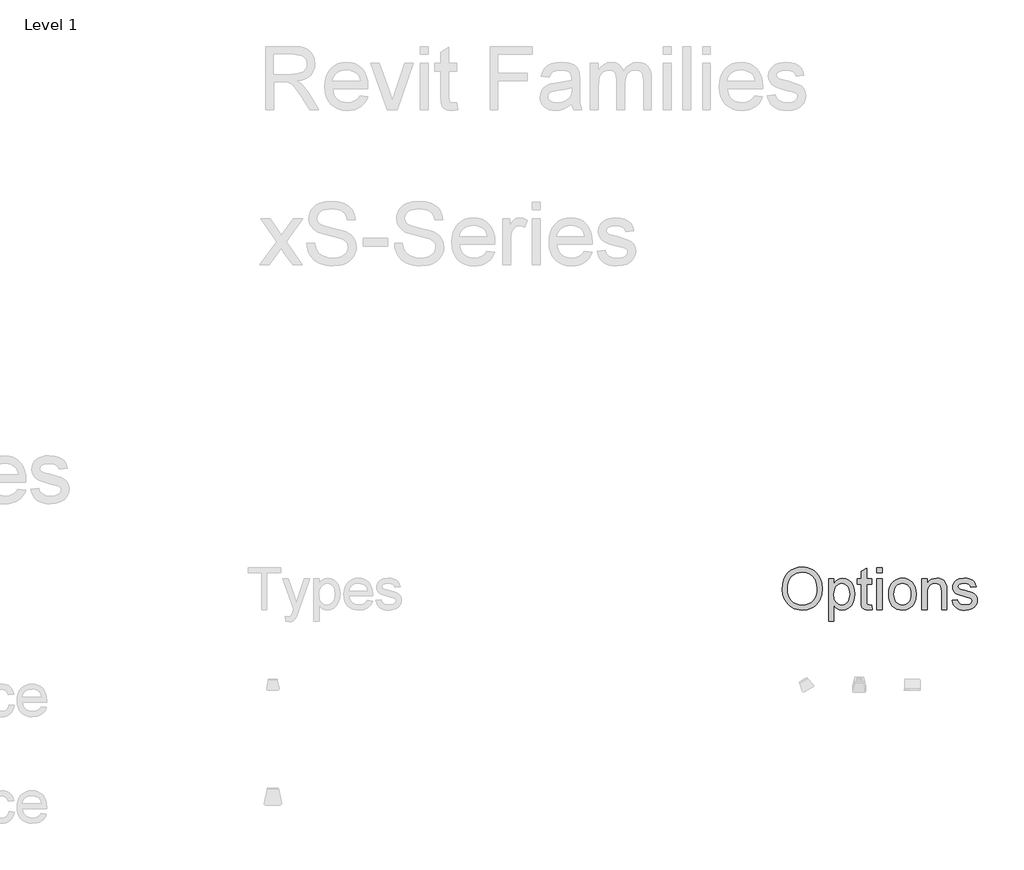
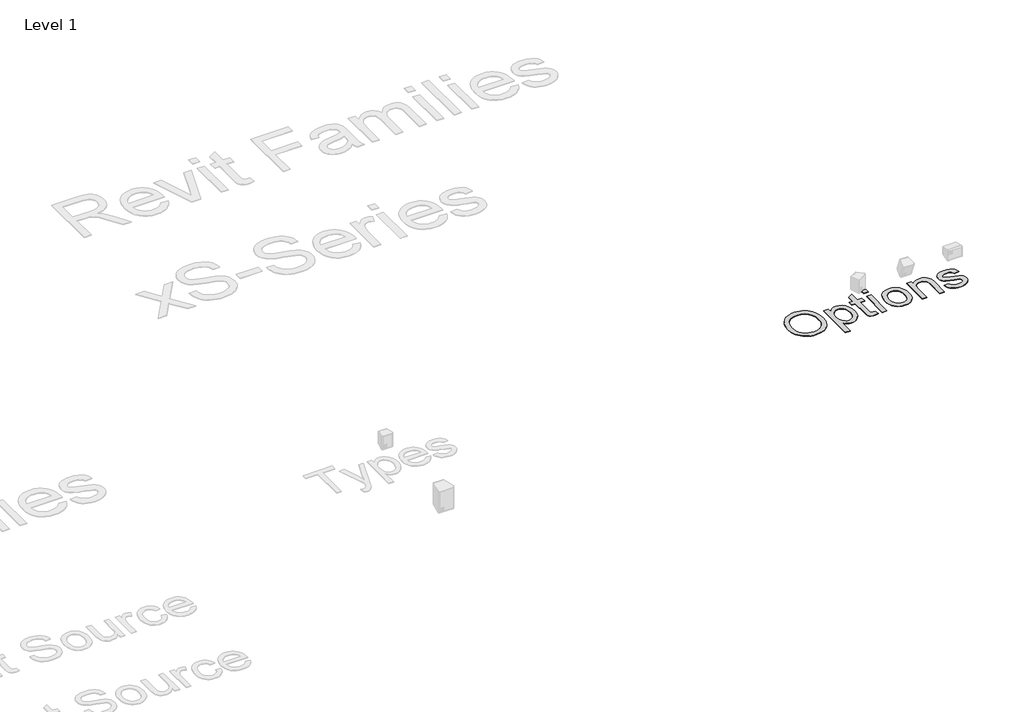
# One storey, part 55 of 55: 2 proxies.
"""IFC4 building model written with IfcOpenShell, lengths in millimetres."""

import ifcopenshell
import ifcopenshell.guid

model = None  # the IFC model being written
_history = None  # IfcOwnerHistory: only IFC2X3 demands one
_inside = {}  # id of a spatial element -> (the spatial element, [elements in it])
_under = {}  # id of a project, library or spatial element -> (it, [spatial elements below it])
_declared = {}  # id of a project -> (the project, [libraries it declares])
_typed = {}  # id of a type object -> (the type object, [elements of that type])
_made_of = {}  # id of a material, layer set ... -> (it, [elements and type objects made of it])


def new_model(schema):
    """Start an empty IFC model of exactly this schema.

    Asked for "IFC4X3", IfcOpenShell would pick the latest addendum, in which some entities
    have other attributes; the version numbers below select the first issue.
    IFC2X3 requires an IfcOwnerHistory on every rooted entity: one is made here for all.
    """
    global model, _history
    if schema == "IFC4X3":
        model = ifcopenshell.file(schema_version=(4, 3, 0, 0))
    else:
        model = ifcopenshell.file(schema=schema)
    _inside.clear()
    _under.clear()
    _declared.clear()
    _typed.clear()
    _made_of.clear()
    _history = None
    if model.schema == "IFC2X3":
        org = make("IfcOrganization", Name="unknown")
        user = make(
            "IfcPersonAndOrganization",
            ThePerson=make("IfcPerson", FamilyName="unknown"),
            TheOrganization=org,
        )
        app = make(
            "IfcApplication",
            ApplicationDeveloper=org,
            Version="unknown",
            ApplicationFullName="unknown",
            ApplicationIdentifier="unknown",
        )
        _history = make(
            "IfcOwnerHistory",
            OwningUser=user,
            OwningApplication=app,
            ChangeAction="ADDED",
            CreationDate=0,
        )
    return model


def make(cls, **values):
    """One entity of the class cls with the attributes given. An attribute that is None is left unset."""
    return model.create_entity(
        cls, **{name: value for name, value in values.items() if value is not None}
    )


def rooted(cls, **values):
    """An entity with a GlobalId (a new one), such as an element, a storey or a relation."""
    return make(cls, GlobalId=ifcopenshell.guid.new(), OwnerHistory=_history, **values)


def si_unit(unit_type, name, prefix=None):
    """IfcSIUnit, for example si_unit("LENGTHUNIT", "METRE", prefix="MILLI")."""
    return make("IfcSIUnit", UnitType=unit_type, Prefix=prefix, Name=name)


def assignment(units):
    """IfcUnitAssignment: the units of a project."""
    return None if units is None else make("IfcUnitAssignment", Units=units)


def point(xyz):
    """IfcCartesianPoint."""
    return None if xyz is None else make("IfcCartesianPoint", Coordinates=xyz)


def direction(xyz):
    """IfcDirection."""
    return None if xyz is None else make("IfcDirection", DirectionRatios=xyz)


def frame(location, z_axis=None, x_axis=None):
    """IfcAxis2Placement3D, a coordinate frame: its origin and axes. An axis left out is left unset."""
    return make(
        "IfcAxis2Placement3D",
        Location=point(location),
        Axis=direction(z_axis),
        RefDirection=direction(x_axis),
    )


def origin():
    """The frame at (0, 0, 0) with its axes left unset."""
    return frame((0.0, 0.0, 0.0))


def origin_with_axes():
    """The frame at (0, 0, 0) with the z axis (0, 0, 1) and the x axis (1, 0, 0) written out."""
    return frame((0.0, 0.0, 0.0), z_axis=(0.0, 0.0, 1.0), x_axis=(1.0, 0.0, 0.0))


def place(relative_to, where):
    """IfcLocalPlacement: puts the frame where relative to a parent placement (None: the world)."""
    return make(
        "IfcLocalPlacement", PlacementRelTo=relative_to, RelativePlacement=where
    )


def context(
    kind, dimensions, precision=None, world=None, true_north=None, identifier=None
):
    """IfcGeometricRepresentationContext, for example the 3D "Model" context."""
    return make(
        "IfcGeometricRepresentationContext",
        ContextIdentifier=identifier,
        ContextType=kind,
        CoordinateSpaceDimension=dimensions,
        Precision=precision,
        WorldCoordinateSystem=world,
        TrueNorth=true_north,
    )


def project(units=None, contexts=None):
    """IfcProject with its units and contexts."""
    return rooted(
        "IfcProject",
        Name="project",
        RepresentationContexts=contexts,
        UnitsInContext=assignment(units),
    )


def spatial(cls, under=None, at=None, **own):
    """A site, building, storey or space (cls), placed at a placement, below another one or the project."""
    s = rooted(cls, ObjectPlacement=at, **own)
    if under is not None:
        _under.setdefault(under.id(), (under, []))[1].append(s)
    return s


def polyline(points):
    """IfcPolyline through the points."""
    return make("IfcPolyline", Points=[point(p) for p in points])


def outline(outer, holes=None, kind="AREA"):
    """IfcArbitraryClosedProfileDef: a profile drawn as a closed curve; with holes, ...WithVoids."""
    if holes is None:
        return make("IfcArbitraryClosedProfileDef", ProfileType=kind, OuterCurve=outer)
    return make(
        "IfcArbitraryProfileDefWithVoids",
        ProfileType=kind,
        OuterCurve=outer,
        InnerCurves=holes,
    )


def extrude(swept, where, along, depth):
    """IfcExtrudedAreaSolid: the profile swept, set in the frame where, extruded along a direction by depth."""
    return make(
        "IfcExtrudedAreaSolid",
        SweptArea=swept,
        Position=where,
        ExtrudedDirection=direction(along),
        Depth=depth,
    )


def shape(context_of_items, identifier, shape_type, items):
    """IfcShapeRepresentation: the items that make up one representation, for example the "Body"."""
    return make(
        "IfcShapeRepresentation",
        ContextOfItems=context_of_items,
        RepresentationIdentifier=identifier,
        RepresentationType=shape_type,
        Items=items,
    )


def made_of(thing, what):
    """Note that an element or type object is made of a material, layer set ...; save() writes the relation."""
    if what is not None:
        _made_of.setdefault(what.id(), (what, []))[1].append(thing)
    return thing


def element(
    cls,
    number,
    at=None,
    inside=None,
    cuts=None,
    type_object=None,
    material=None,
    context=None,
    identifier="Body",
    shape_type=None,
    held_by="IfcProductDefinitionShape",
    body=None,
    shapes=None,
    **own,
):
    """One element of the class cls, such as IfcWall. Its Tag is "e" and its number.

    at: its placement. inside: the storey or other place that contains it. cuts: it is an
    opening in that element (IfcRelVoidsElement). A single representation is given by context,
    identifier, shape_type and body (its items); several are given by shapes. held_by: the class
    of the entity that holds the representations. save() writes the other relations.
    """
    e = rooted(cls, Tag="e%d" % number, ObjectPlacement=at, **own)
    if body is not None:
        shapes = [shape(context, identifier, shape_type, body)]
    if shapes is not None:
        e.Representation = make(held_by, Representations=shapes)
    if inside is not None:
        _inside.setdefault(inside.id(), (inside, []))[1].append(e)
    if cuts is not None:
        rooted(
            "IfcRelVoidsElement", RelatingBuildingElement=cuts, RelatedOpeningElement=e
        )
    if type_object is not None:
        _typed.setdefault(type_object.id(), (type_object, []))[1].append(e)
    return made_of(e, material)


def aggregate(whole, parts):
    """IfcRelAggregates: a whole, such as a stair, and the parts it consists of."""
    return rooted("IfcRelAggregates", RelatingObject=whole, RelatedObjects=parts)


def save(model, path):
    """Write the relations noted so far, then the file.

    IfcRelAggregates (storeys below a building ...), IfcRelContainedInSpatialStructure (elements
    in a storey), IfcRelDefinesByType, IfcRelAssociatesMaterial and IfcRelDeclares: one each for
    every whole, place, type object, material and project.
    """
    for whole, parts in _under.values():
        aggregate(whole, parts)
    for where, things in _inside.values():
        rooted(
            "IfcRelContainedInSpatialStructure",
            RelatedElements=things,
            RelatingStructure=where,
        )
    for kind, things in _typed.values():
        rooted("IfcRelDefinesByType", RelatedObjects=things, RelatingType=kind)
    for what, things in _made_of.values():
        rooted("IfcRelAssociatesMaterial", RelatedObjects=things, RelatingMaterial=what)
    for by, libraries in _declared.values():
        rooted("IfcRelDeclares", RelatingContext=by, RelatedDefinitions=libraries)
    model.write(path)


model = new_model("IFC4")

# Units and contexts
model_context = context("Model", 3, world=origin())
ifc_project = project(units=[si_unit("LENGTHUNIT", "METRE", prefix="MILLI")], contexts=[model_context])

# Site, building, storey
site = spatial("IfcSite", under=ifc_project)
building = spatial("IfcBuilding", under=site)
storey = spatial("IfcBuildingStorey", under=building, Name="Level 1", Elevation=0.0)

# Proxies
placement = place(None, origin())
element("IfcBuildingElementProxy", 1, Name="400mm Arial", ObjectType="400mm Arial", at=placement, inside=storey, context=model_context, shape_type="SweptSolid", body=[
    extrude(outline(polyline([(-6462.261333, 17542.0194987), (-6458.9974836, 17587.9704339), (-6449.2059353, 17628.6489968), (-6432.8866881, 17664.0551876), (-6410.0397421, 17694.1890063), (-6382.0340011, 17718.2494348), (-6350.238369, 17735.4354552), (-6314.6528458, 17745.7470674), (-6275.2774315, 17749.1842715), (-6248.9215484, 17747.57028), (-6223.892725, 17742.7283055), (-6200.1909613, 17734.6583482), (-6177.8162572, 17723.3604078), (-6157.3962762, 17709.1752161), (-6139.5586815, 17692.4435044), (-6124.3034732, 17673.1652729), (-6111.6306512, 17651.3405215), (-6101.671726, 17627.4654031), (-6094.558208, 17602.0360707), (-6088.8673936, 17546.5147639), (-6094.8570953, 17490.2522165), (-6102.3442224, 17464.4701971), (-6112.8262004, 17440.2543472), (-6126.0549528, 17418.2442857), (-6141.7824031, 17399.0796313), (-6160.0085513, 17382.7603841), (-6180.7333974, 17369.2865442), (-6226.4153339, 17351.2098396), (-6275.5643633, 17345.1842715), (-6302.3805328, 17346.8490738), (-6327.7381322, 17351.8434807), (-6351.6371616, 17360.1674923), (-6374.0776209, 17371.8211086), (-6394.473691, 17386.3530096), (-6412.2395527, 17403.3118756), (-6427.3752061, 17422.6977066), (-6439.8806512, 17444.5105025), (-6456.6661625, 17491.91403), (-6462.261333, 17542.0194987)]), holes=[polyline([(-6413.291636, 17541.541279), (-6410.843749, 17509.0761393), (-6403.5000877, 17480.2574249), (-6391.2606524, 17455.0851356), (-6374.1254429, 17433.5592715), (-6353.2959862, 17416.3194514), (-6329.9738093, 17404.0052942), (-6304.1589123, 17396.6167999), (-6275.8512951, 17394.1539684), (-6247.0594805, 17396.6407108), (-6220.9397184, 17404.1009381), (-6197.4920089, 17416.5346502), (-6176.7163519, 17433.9418472), (-6159.7066751, 17455.92202), (-6147.5569059, 17482.0746597), (-6140.2670444, 17512.3997662), (-6137.8370906, 17546.8973396), (-6141.9976019, 17590.2479552), (-6154.479136, 17627.7164684), (-6174.9588946, 17658.3583955), (-6203.1140792, 17681.2292525), (-6237.0796332, 17695.468244), (-6274.9904997, 17700.2145745), (-6302.3147776, 17697.9280866), (-6327.6663993, 17691.0686228), (-6351.0453647, 17679.6361831), (-6372.4516739, 17663.6307677), (-6390.3191573, 17642.2812471), (-6403.0816455, 17614.8164921), (-6410.7391384, 17581.2365027), (-6413.291636, 17541.541279)])]), origin_with_axes(), (0.0, 0.0, 1.0), 5.0),
    extrude(outline(polyline([(-6027.6552724, 17241.1236654), (-6027.6552724, 17639.0024533), (-5978.6855754, 17639.0024533), (-5978.6855754, 17590.9891957), (-5962.7130375, 17614.6730262), (-5944.8276209, 17631.590048), (-5923.9772421, 17641.740261), (-5899.1098179, 17645.1236654), (-5865.9931038, 17640.3892904), (-5837.0369012, 17626.1861654), (-5813.4606701, 17603.3750858), (-5796.4838709, 17572.8168472), (-5786.2260584, 17536.7351711), (-5782.8067875, 17497.353779), (-5786.6684116, 17455.4736891), (-5798.2532838, 17418.0171313), (-5817.1907838, 17386.885029), (-5843.1102913, 17363.9783055), (-5873.2979097, 17349.88278), (-5905.0397421, 17345.1842715), (-5927.5519343, 17348.328566), (-5947.6491171, 17357.7614495), (-5964.8530707, 17372.000441), (-5978.6855754, 17389.5630593), (-5978.6855754, 17241.1236654), (-6027.6552724, 17241.1236654)]), holes=[polyline([(-5978.6855754, 17492.8585139), (-5973.3892923, 17448.9579457), (-5966.7689384, 17431.9572355), (-5957.5004429, 17418.2562411), (-5934.0557222, 17400.1795366), (-5920.6386708, 17395.6603605), (-5906.0918254, 17394.1539684), (-5891.3357589, 17395.7141602), (-5877.6736199, 17400.3947355), (-5853.6311247, 17419.1170366), (-5844.0697196, 17433.3141839), (-5837.2401446, 17450.9425574), (-5831.7764845, 17496.4929836), (-5837.1086341, 17540.1544419), (-5843.7738212, 17557.2866625), (-5853.105083, 17571.2865442), (-5876.5139372, 17589.9371124), (-5889.778556, 17594.5997544), (-5904.0833027, 17596.1539684), (-5918.3432163, 17594.5011216), (-5931.7602677, 17589.5425811), (-5956.0657838, 17569.7084192), (-5965.9619426, 17554.9882191), (-5973.0306275, 17537.2731682), (-5977.2718384, 17516.5632665), (-5978.6855754, 17492.8585139)])]), origin_with_axes(), (0.0, 0.0, 1.0), 5.0),
    extrude(outline(polyline([(-5623.6552724, 17392.1454457), (-5617.5340603, 17349.8708245), (-5654.1656891, 17345.1842715), (-5677.6701872, 17347.2167052), (-5695.1969391, 17353.3140063), (-5707.5828292, 17362.7110233), (-5715.6647421, 17374.6426048), (-5720.1121853, 17395.1343188), (-5721.5946663, 17430.2117336), (-5721.5946663, 17590.0327563), (-5758.3219391, 17590.0327563), (-5758.3219391, 17639.0024533), (-5721.5946663, 17639.0024533), (-5721.5946663, 17708.918173), (-5672.6249694, 17737.7069987), (-5672.6249694, 17639.0024533), (-5623.6552724, 17639.0024533), (-5623.6552724, 17590.0327563), (-5672.6249694, 17590.0327563), (-5672.6249694, 17431.6463927), (-5670.042583, 17406.3963927), (-5661.6737383, 17397.4536843), (-5644.9838709, 17394.1539684), (-5623.6552724, 17392.1454457)])), origin_with_axes(), (0.0, 0.0, 1.0), 5.0),
    extrude(outline(polyline([(-5574.6855754, 17351.3054836), (-5574.6855754, 17639.0024533), (-5525.7158785, 17639.0024533), (-5525.7158785, 17351.3054836), (-5574.6855754, 17351.3054836)])), origin_with_axes(), (0.0, 0.0, 1.0), 5.0),
    extrude(outline(polyline([(-5574.6855754, 17694.0933624), (-5574.6855754, 17743.0630593), (-5525.7158785, 17743.0630593), (-5525.7158785, 17694.0933624), (-5574.6855754, 17694.0933624)])), origin_with_axes(), (0.0, 0.0, 1.0), 5.0),
    extrude(outline(polyline([(-5464.5037572, 17495.1539684), (-5461.8556157, 17532.4132606), (-5453.911191, 17564.5197355), (-5440.6704831, 17591.4733931), (-5422.1334921, 17613.2742336), (-5403.4709684, 17627.20836), (-5382.871655, 17637.1613074), (-5360.3355518, 17643.1330759), (-5335.8626588, 17645.1236654), (-5308.8462348, 17642.6996893), (-5284.4181749, 17635.427761), (-5262.5784791, 17623.3078806), (-5243.3271474, 17606.340048), (-5227.6146415, 17585.0981268), (-5216.391423, 17560.1559807), (-5209.6574919, 17531.5136098), (-5207.4128482, 17499.1710139), (-5211.3820716, 17449.6991862), (-5223.2897421, 17412.0393851), (-5242.7891502, 17383.8363785), (-5269.5335868, 17362.7349343), (-5301.2993302, 17349.5719372), (-5335.8626588, 17345.1842715), (-5363.273614, 17347.5992809), (-5387.9288283, 17354.8443093), (-5409.8283015, 17366.9193567), (-5428.9720338, 17383.824423), (-5444.5171628, 17405.2725764), (-5455.6208264, 17430.9768851), (-5462.2830245, 17460.9373491), (-5464.5037572, 17495.1539684)]), holes=[polyline([(-5415.5340603, 17495.2496124), (-5414.1173344, 17471.4970378), (-5409.8671569, 17450.9306019), (-5402.7835276, 17433.5503048), (-5392.8664466, 17419.3561465), (-5380.8033548, 17408.3301936), (-5367.2816929, 17400.4545129), (-5352.3014608, 17395.7291045), (-5335.8626588, 17394.1539684), (-5319.5075451, 17395.7380712), (-5304.5870906, 17400.4903794), (-5291.1012951, 17408.4108931), (-5279.0501588, 17419.4996124), (-5269.1330778, 17433.8342478), (-5262.0494485, 17451.4925101), (-5257.799271, 17472.4743993), (-5256.3825451, 17496.7799154), (-5257.8082376, 17519.7792939), (-5262.085315, 17539.8077326), (-5269.2137774, 17556.8652314), (-5279.1936247, 17570.9517904), (-5291.2895941, 17581.9777433), (-5304.766423, 17589.8534239), (-5319.6241112, 17594.5788323), (-5335.8626588, 17596.1539684), (-5352.3014608, 17594.58481), (-5367.2816929, 17589.8773349), (-5380.8033548, 17582.031543), (-5392.8664466, 17571.0474343), (-5402.7835276, 17556.8951202), (-5409.8671569, 17539.5447118), (-5414.1173344, 17518.9962092), (-5415.5340603, 17495.2496124)])]), origin_with_axes(), (0.0, 0.0, 1.0), 5.0),
    extrude(outline(polyline([(-5152.3219391, 17351.3054836), (-5152.3219391, 17639.0024533), (-5103.3522421, 17639.0024533), (-5103.3522421, 17598.8319987), (-5086.3395764, 17619.0846029), (-5065.9076398, 17633.5507487), (-5042.0564324, 17642.2304362), (-5014.7859542, 17645.1236654), (-4990.647815, 17642.7923444), (-4968.5421095, 17635.7983813), (-4950.1067402, 17625.0145271), (-4936.9796095, 17611.3135328), (-4928.0727677, 17594.7312648), (-4922.2982648, 17575.3035896), (-4919.7158785, 17527.9598396), (-4919.7158785, 17351.3054836), (-4968.6855754, 17351.3054836), (-4968.6855754, 17521.3604078), (-4970.0963235, 17546.6821408), (-4974.3285679, 17564.6871124), (-4982.1355044, 17577.5870887), (-4994.2703292, 17587.5938358), (-5009.8244249, 17594.0139353), (-5027.8891739, 17596.1539684), (-5056.5704002, 17591.3478605), (-5081.0193822, 17576.9295366), (-5090.7900084, 17565.1593543), (-5097.7690271, 17549.0732393), (-5101.9564384, 17528.6711914), (-5103.3522421, 17503.9532108), (-5103.3522421, 17351.3054836), (-5152.3219391, 17351.3054836)])), origin_with_axes(), (0.0, 0.0, 1.0), 5.0),
    extrude(outline(polyline([(-4870.7461815, 17437.0024533), (-4821.7764845, 17443.1236654), (-4814.0532364, 17422.1776427), (-4799.1088709, 17406.7789684), (-4776.847744, 17397.3102184), (-4747.1742118, 17394.1539684), (-4717.8593444, 17397.0471976), (-4697.2480754, 17405.7268851), (-4685.0534732, 17418.3040631), (-4680.9886057, 17432.8897639), (-4685.0773841, 17445.371298), (-4697.3437194, 17454.8878699), (-4747.7480754, 17468.8518851), (-4821.4895527, 17492.8106919), (-4840.1520764, 17504.8498728), (-4853.6737383, 17520.7865442), (-4861.8871616, 17539.6044893), (-4864.6249694, 17560.2874911), (-4862.4251588, 17579.2608576), (-4855.8257269, 17596.775654), (-4845.4244485, 17612.1384618), (-4831.8190982, 17624.6558624), (-4800.6869959, 17639.1459192), (-4758.5558406, 17645.1236654), (-4726.6824978, 17642.7206114), (-4698.9696663, 17635.5114495), (-4676.6846285, 17624.2015536), (-4661.0946663, 17609.496298), (-4650.7651209, 17590.3077326), (-4644.261333, 17565.5479078), (-4693.23103, 17559.4266957), (-4699.4120196, 17574.8373254), (-4711.6424883, 17586.4461086), (-4730.0419911, 17593.7270035), (-4754.730083, 17596.1539684), (-4782.8494012, 17593.8346029), (-4801.5956133, 17586.8765063), (-4812.1403576, 17576.8338927), (-4815.6552724, 17565.260976), (-4809.8209921, 17551.010029), (-4791.5529997, 17540.2022639), (-4749.3740224, 17529.7770745), (-4677.4976019, 17506.7268851), (-4658.51228, 17495.7039211), (-4644.1178671, 17480.6160896), (-4635.0436483, 17461.4155688), (-4632.0189088, 17438.0545366), (-4635.56969, 17413.9044419), (-4646.2220338, 17391.1890063), (-4663.5694533, 17371.6895982), (-4687.2054618, 17357.1875858), (-4715.7551777, 17348.1851), (-4747.8437194, 17345.1842715), (-4774.1996024, 17346.630886), (-4797.2199031, 17350.9707298), (-4816.9046214, 17358.2038027), (-4833.2537572, 17368.3301048), (-4846.6080423, 17381.3018141), (-4857.308208, 17397.0711086), (-4865.3542544, 17415.6379883), (-4870.7461815, 17437.0024533)])), origin_with_axes(), (0.0, 0.0, 1.0), 5.0),
])
element("IfcBuildingElementProxy", 2, Name="600mm Arial", ObjectType="600mm Arial", at=placement, inside=storey, context=model_context, shape_type="SweptSolid", body=[
    extrude(outline(polyline([(-11309.2935955, 22041.6162982), (-11309.2935955, 22632.385529), (-11054.7262878, 22632.385529), (-10986.3068167, 22628.401154), (-10936.5291724, 22616.448029), (-10917.3194369, 22606.9468271), (-10900.1469609, 22594.3807213), (-10885.0117446, 22578.7497117), (-10871.9137878, 22560.0537982), (-10861.3443768, 22539.2980891), (-10853.7947974, 22517.4876924), (-10847.755134, 22470.7028367), (-10850.2566364, 22440.3602886), (-10857.7611436, 22412.5057213), (-10870.2686556, 22387.1391347), (-10887.7791724, 22364.260529), (-10910.5180547, 22344.6000722), (-10938.7106628, 22328.8879328), (-10972.356997, 22317.1241107), (-11011.4570571, 22309.3086059), (-10987.1181148, 22293.4071636), (-10969.4859032, 22277.7220674), (-10909.630134, 22201.7124521), (-10811.1205186, 22041.6162982), (-10896.9378263, 22041.6162982), (-10973.8128263, 22164.0682213), (-11029.3416724, 22245.1259136), (-11049.9847013, 22268.7617309), (-11068.3560955, 22283.4191828), (-11103.4762878, 22297.4816828), (-11146.3128263, 22300.0778367), (-11235.4474417, 22300.0778367), (-11235.4474417, 22041.6162982), (-11309.2935955, 22041.6162982)]), holes=[polyline([(-11235.4474417, 22373.9239905), (-11070.1589801, 22373.9239905), (-11022.6890282, 22376.5381732), (-10985.8560955, 22384.3807213), (-10958.1277301, 22397.9744713), (-10937.9714801, 22417.8422597), (-10925.6938359, 22441.8747117), (-10921.6012878, 22467.9624521), (-10923.5529104, 22486.8476684), (-10929.4077782, 22503.9840867), (-10939.1658912, 22519.3717069), (-10952.8272494, 22533.010529), (-10970.7073575, 22544.1793992), (-10993.1217205, 22552.1571636), (-11020.0703383, 22556.9438222), (-11051.5532109, 22558.5393751), (-11235.4474417, 22558.5393751), (-11235.4474417, 22373.9239905)])]), origin_with_axes(), (0.0, 0.0, 1.0), 5.0),
    extrude(outline(polyline([(-10424.005134, 22170.8470674), (-10351.6012878, 22161.6162982), (-10362.7025498, 22132.6168992), (-10377.6890282, 22107.0610097), (-10396.5607229, 22084.9486299), (-10419.317634, 22066.2797597), (-10445.7253864, 22051.4510338), (-10475.5496051, 22040.8590867), (-10508.7902902, 22034.5039184), (-10545.4474417, 22032.385529), (-10591.2677542, 22036.0408775), (-10632.0940763, 22047.0069232), (-10667.926408, 22065.283666), (-10698.7647494, 22090.8711059), (-10723.5634273, 22123.0571035), (-10741.2767686, 22161.1295194), (-10751.9047734, 22205.0883535), (-10755.4474417, 22254.9336059), (-10751.8687157, 22306.4690626), (-10741.1325378, 22351.8927405), (-10723.238908, 22391.2046396), (-10698.1878263, 22424.4047597), (-10667.4306148, 22450.7809617), (-10632.4185955, 22469.6211059), (-10593.1517686, 22480.9251924), (-10549.630134, 22484.6932213), (-10507.5102422, 22480.9342069), (-10469.4197974, 22469.6571636), (-10435.3587998, 22450.8620915), (-10405.3272494, 22424.5489905), (-10380.8125258, 22391.4209857), (-10363.302009, 22352.1812021), (-10352.7956989, 22306.8296396), (-10349.2935955, 22255.3662982), (-10349.7262878, 22235.4624521), (-10681.6012878, 22235.4624521), (-10677.3239441, 22205.994303), (-10668.8188359, 22180.1860097), (-10656.0859633, 22158.0375722), (-10639.1253263, 22139.5489905), (-10618.8744248, 22124.9726684), (-10596.270759, 22114.5610097), (-10571.3143287, 22108.3140146), (-10544.005134, 22106.2316828), (-10504.7022494, 22110.0898559), (-10471.6012878, 22121.6643751), (-10444.7022494, 22141.6763944), (-10424.005134, 22170.8470674)]), holes=[polyline([(-10681.6012878, 22309.3086059), (-10423.1397494, 22309.3086059), (-10433.1277301, 22348.323029), (-10441.7184753, 22363.6655771), (-10452.7070571, 22376.2316828), (-10472.8452782, 22391.3759136), (-10495.7599417, 22402.1932213), (-10521.4510474, 22408.6836059), (-10549.9185955, 22410.8470674), (-10575.8846412, 22409.1208054), (-10599.6962398, 22403.9420194), (-10621.3533912, 22395.3107093), (-10640.8560955, 22383.2268751), (-10657.2217806, 22368.2494112), (-10669.4678744, 22350.9372117), (-10677.5943768, 22331.2902766), (-10681.6012878, 22309.3086059)])]), origin_with_axes(), (0.0, 0.0, 1.0), 5.0),
    extrude(outline(polyline([(-10169.005134, 22041.6162982), (-10321.6012878, 22475.4624521), (-10243.4282109, 22475.4624521), (-10150.9762878, 22215.5586059), (-10123.1397494, 22128.1547597), (-10095.880134, 22210.6547597), (-10002.8512878, 22475.4624521), (-9924.6782109, 22475.4624521), (-10075.3993648, 22041.6162982), (-10169.005134, 22041.6162982)])), origin_with_axes(), (0.0, 0.0, 1.0), 5.0),
    extrude(outline(polyline([(-9860.0628263, 22041.6162982), (-9860.0628263, 22475.4624521), (-9786.2166724, 22475.4624521), (-9786.2166724, 22041.6162982), (-9860.0628263, 22041.6162982)])), origin_with_axes(), (0.0, 0.0, 1.0), 5.0),
    extrude(outline(polyline([(-9860.0628263, 22558.5393751), (-9860.0628263, 22632.385529), (-9786.2166724, 22632.385529), (-9786.2166724, 22558.5393751), (-9860.0628263, 22558.5393751)])), origin_with_axes(), (0.0, 0.0, 1.0), 5.0),
    extrude(outline(polyline([(-9518.5243648, 22103.2028367), (-9509.2935955, 22039.4528367), (-9564.5339801, 22032.385529), (-9599.9786917, 22035.4504328), (-9626.4089801, 22044.6451444), (-9645.0868648, 22058.8158174), (-9657.2743648, 22076.8086059), (-9663.9810955, 22107.7100482), (-9666.2166724, 22160.6066828), (-9666.2166724, 22401.6162982), (-9721.6012878, 22401.6162982), (-9721.6012878, 22475.4624521), (-9666.2166724, 22475.4624521), (-9666.2166724, 22580.8951444), (-9592.3705186, 22624.3086059), (-9592.3705186, 22475.4624521), (-9518.5243648, 22475.4624521), (-9518.5243648, 22401.6162982), (-9592.3705186, 22401.6162982), (-9592.3705186, 22162.7701444), (-9588.4762878, 22124.6932213), (-9575.8560955, 22111.2076444), (-9565.2010474, 22107.4756732), (-9550.6878263, 22106.2316828), (-9518.5243648, 22103.2028367)])), origin_with_axes(), (0.0, 0.0, 1.0), 5.0),
    extrude(outline(polyline([(-9204.6782109, 22041.6162982), (-9204.6782109, 22632.385529), (-8807.755134, 22632.385529), (-8807.755134, 22558.5393751), (-9130.8320571, 22558.5393751), (-9130.8320571, 22383.1547597), (-8853.9089801, 22383.1547597), (-8853.9089801, 22309.3086059), (-9130.8320571, 22309.3086059), (-9130.8320571, 22041.6162982), (-9204.6782109, 22041.6162982)])), origin_with_axes(), (0.0, 0.0, 1.0), 5.0),
    extrude(outline(polyline([(-8438.5243648, 22097.0009136), (-8473.8068167, 22066.7485097), (-8510.1349417, 22046.9528367), (-8548.3380667, 22036.0273559), (-8589.2455186, 22032.385529), (-8622.1256268, 22034.5760338), (-8650.958259, 22041.1475482), (-8675.7434152, 22052.1000722), (-8696.4810955, 22067.4336059), (-8712.855795, 22086.1745915), (-8724.552009, 22107.3494713), (-8731.5697373, 22130.9582453), (-8733.9089801, 22157.0009136), (-8730.3753263, 22187.6138944), (-8719.7743648, 22215.4143751), (-8703.4222013, 22239.2124521), (-8682.6349417, 22257.8182213), (-8658.2058551, 22271.8807213), (-8630.9282109, 22282.0489905), (-8567.0339801, 22293.1547597), (-8491.5291724, 22304.8374521), (-8438.9570571, 22318.5393751), (-8438.5243648, 22334.9816828), (-8443.6084994, 22367.9384136), (-8449.9636676, 22380.1439424), (-8458.8609032, 22389.5009136), (-8474.239509, 22398.8398559), (-8492.9714801, 22405.510529), (-8540.4955186, 22410.8470674), (-8584.4859032, 22407.2953847), (-8615.2070571, 22396.6403367), (-8636.1565763, 22376.9348078), (-8650.8320571, 22346.2316828), (-8724.6782109, 22355.4624521), (-8711.8597013, 22395.8470674), (-8692.7310955, 22427.5778367), (-8665.5075378, 22451.8446636), (-8628.4041724, 22469.8374521), (-8583.0255667, 22480.979279), (-8530.9762878, 22484.6932213), (-8481.0544128, 22481.4119713), (-8441.4810955, 22471.5682213), (-8411.6433551, 22456.7665386), (-8390.9282109, 22438.6114905), (-8377.1902301, 22416.1655771), (-8368.2839801, 22388.4912982), (-8364.6782109, 22323.8759136), (-8364.6782109, 22232.0009136), (-8360.9282109, 22103.7076444), (-8355.3753263, 22071.994904), (-8346.2166724, 22041.6162982), (-8420.0628263, 22041.6162982), (-8431.8897494, 22067.2893751), (-8438.5243648, 22097.0009136)]), holes=[polyline([(-8438.5243648, 22244.6932213), (-8488.1397494, 22232.3975482), (-8557.6589801, 22222.0489905), (-8621.192634, 22210.0778367), (-8637.7250859, 22201.8927405), (-8649.9666724, 22190.6066828), (-8657.5387878, 22177.0850482), (-8660.0628263, 22162.1932213), (-8654.5640282, 22140.2340867), (-8638.067634, 22122.2412982), (-8610.9342205, 22110.2340867), (-8573.5243648, 22106.2316828), (-8533.8609032, 22110.6487501), (-8498.8128263, 22123.8999521), (-8470.3993648, 22143.4251924), (-8450.6397494, 22166.6643751), (-8441.8777301, 22190.6066828), (-8438.9570571, 22223.7797597), (-8438.5243648, 22244.6932213)])]), origin_with_axes(), (0.0, 0.0, 1.0), 5.0),
    extrude(outline(polyline([(-8263.1397494, 22041.6162982), (-8263.1397494, 22475.4624521), (-8189.2935955, 22475.4624521), (-8189.2935955, 22404.0682213), (-8167.0820571, 22436.8626924), (-8138.5243648, 22462.5537982), (-8104.5940763, 22479.1583655), (-8066.2647494, 22484.6932213), (-8025.1950378, 22479.0501924), (-8007.7160715, 22471.9964064), (-7992.2743648, 22462.1211059), (-7967.6830186, 22435.0237501), (-7951.6012878, 22398.8759136), (-7924.6842205, 22436.4209857), (-7893.9810955, 22463.2388944), (-7859.4919128, 22479.3296396), (-7821.2166724, 22484.6932213), (-7791.653872, 22482.4621516), (-7765.7058551, 22475.7689424), (-7743.372622, 22464.6135939), (-7724.6541724, 22448.9961059), (-7709.856997, 22428.73619), (-7699.2875859, 22403.6535578), (-7692.9459393, 22373.7482093), (-7690.8320571, 22339.0201444), (-7690.8320571, 22041.6162982), (-7764.6782109, 22041.6162982), (-7764.6782109, 22307.2893751), (-7766.3909513, 22344.1223078), (-7771.5291724, 22368.948029), (-7781.1565763, 22385.9492309), (-7796.3368648, 22399.3086059), (-7815.8621051, 22407.9624521), (-7838.5243648, 22410.8470674), (-7859.4513479, 22408.9991107), (-7878.5303744, 22403.4552405), (-7895.7614441, 22394.2154569), (-7911.1445571, 22381.2797597), (-7923.7962998, 22364.2695434), (-7932.833259, 22342.8062021), (-7938.2554345, 22316.8897357), (-7940.0628263, 22286.5201444), (-7940.0628263, 22041.6162982), (-8013.9089801, 22041.6162982), (-8013.9089801, 22315.510529), (-8018.1818167, 22357.2653367), (-8031.0003263, 22387.0489905), (-8040.9116845, 22397.4606492), (-8053.5544128, 22404.8975482), (-8068.9285114, 22409.3596876), (-8087.0339801, 22410.8470674), (-8115.4834994, 22406.8807213), (-8141.6974417, 22394.9816828), (-8163.3320571, 22375.4384136), (-8178.0435955, 22348.5393751), (-8186.4810955, 22311.2196636), (-8189.2935955, 22260.4143751), (-8189.2935955, 22041.6162982), (-8263.1397494, 22041.6162982)])), origin_with_axes(), (0.0, 0.0, 1.0), 5.0),
    extrude(outline(polyline([(-7580.0628263, 22041.6162982), (-7580.0628263, 22475.4624521), (-7506.2166724, 22475.4624521), (-7506.2166724, 22041.6162982), (-7580.0628263, 22041.6162982)])), origin_with_axes(), (0.0, 0.0, 1.0), 5.0),
    extrude(outline(polyline([(-7580.0628263, 22558.5393751), (-7580.0628263, 22632.385529), (-7506.2166724, 22632.385529), (-7506.2166724, 22558.5393751), (-7580.0628263, 22558.5393751)])), origin_with_axes(), (0.0, 0.0, 1.0), 5.0),
    extrude(outline(polyline([(-7395.4474417, 22041.6162982), (-7395.4474417, 22632.385529), (-7321.6012878, 22632.385529), (-7321.6012878, 22041.6162982), (-7395.4474417, 22041.6162982)])), origin_with_axes(), (0.0, 0.0, 1.0), 5.0),
    extrude(outline(polyline([(-7210.8320571, 22041.6162982), (-7210.8320571, 22475.4624521), (-7136.9859032, 22475.4624521), (-7136.9859032, 22041.6162982), (-7210.8320571, 22041.6162982)])), origin_with_axes(), (0.0, 0.0, 1.0), 5.0),
    extrude(outline(polyline([(-7210.8320571, 22558.5393751), (-7210.8320571, 22632.385529), (-7136.9859032, 22632.385529), (-7136.9859032, 22558.5393751), (-7210.8320571, 22558.5393751)])), origin_with_axes(), (0.0, 0.0, 1.0), 5.0),
    extrude(outline(polyline([(-6722.4666724, 22170.8470674), (-6650.0628263, 22161.6162982), (-6661.1640883, 22132.6168992), (-6676.1505667, 22107.0610097), (-6695.0222614, 22084.9486299), (-6717.7791724, 22066.2797597), (-6744.1869248, 22051.4510338), (-6774.0111436, 22040.8590867), (-6807.2518287, 22034.5039184), (-6843.9089801, 22032.385529), (-6889.7292926, 22036.0408775), (-6930.5556148, 22047.0069232), (-6966.3879465, 22065.283666), (-6997.2262878, 22090.8711059), (-7022.0249657, 22123.0571035), (-7039.7383071, 22161.1295194), (-7050.3663119, 22205.0883535), (-7053.9089801, 22254.9336059), (-7050.3302542, 22306.4690626), (-7039.5940763, 22351.8927405), (-7021.7004465, 22391.2046396), (-6996.6493648, 22424.4047597), (-6965.8921532, 22450.7809617), (-6930.880134, 22469.6211059), (-6891.6133071, 22480.9251924), (-6848.0916724, 22484.6932213), (-6805.9717806, 22480.9342069), (-6767.8813359, 22469.6571636), (-6733.8203383, 22450.8620915), (-6703.7887878, 22424.5489905), (-6679.2740643, 22391.4209857), (-6661.7635474, 22352.1812021), (-6651.2572373, 22306.8296396), (-6647.755134, 22255.3662982), (-6648.1878263, 22235.4624521), (-6980.0628263, 22235.4624521), (-6975.7854825, 22205.994303), (-6967.2803744, 22180.1860097), (-6954.5475018, 22158.0375722), (-6937.5868648, 22139.5489905), (-6917.3359633, 22124.9726684), (-6894.7322974, 22114.5610097), (-6869.7758672, 22108.3140146), (-6842.4666724, 22106.2316828), (-6803.1637878, 22110.0898559), (-6770.0628263, 22121.6643751), (-6743.1637878, 22141.6763944), (-6722.4666724, 22170.8470674)]), holes=[polyline([(-6980.0628263, 22309.3086059), (-6721.6012878, 22309.3086059), (-6731.5892686, 22348.323029), (-6740.1800138, 22363.6655771), (-6751.1685955, 22376.2316828), (-6771.3068167, 22391.3759136), (-6794.2214801, 22402.1932213), (-6819.9125859, 22408.6836059), (-6848.380134, 22410.8470674), (-6874.3461797, 22409.1208054), (-6898.1577782, 22403.9420194), (-6919.8149297, 22395.3107093), (-6939.317634, 22383.2268751), (-6955.6833191, 22368.2494112), (-6967.9294128, 22350.9372117), (-6976.0559152, 22331.2902766), (-6980.0628263, 22309.3086059)])]), origin_with_axes(), (0.0, 0.0, 1.0), 5.0),
    extrude(outline(polyline([(-6601.6012878, 22170.8470674), (-6527.755134, 22180.0778367), (-6523.2929946, 22163.2388944), (-6516.1084994, 22148.4912982), (-6506.2016484, 22135.8350482), (-6493.5724417, 22125.2701444), (-6478.1848215, 22116.9408174), (-6460.0027301, 22110.9912982), (-6415.255134, 22106.2316828), (-6371.0484032, 22110.5946636), (-6353.8669128, 22116.0483896), (-6339.9666724, 22123.6836059), (-6321.5772494, 22142.6499521), (-6315.4474417, 22164.6451444), (-6316.988908, 22174.6150963), (-6321.6133071, 22183.4672597), (-6340.1109032, 22197.8182213), (-6367.7671532, 22207.1932213), (-6416.1205186, 22218.8759136), (-6483.5123455, 22238.3650963), (-6527.3224417, 22255.0057213), (-6555.4654705, 22273.1607694), (-6575.8560955, 22297.1932213), (-6588.2419128, 22325.5706251), (-6592.3705186, 22356.760529), (-6589.0532109, 22385.3723078), (-6579.1012878, 22411.7845674), (-6563.4161917, 22434.9516347), (-6542.8993648, 22453.8278367), (-6522.5087398, 22465.7088463), (-6495.9522494, 22475.6787982), (-6465.2491244, 22482.4396155), (-6432.4185955, 22484.6932213), (-6384.3536917, 22481.0694232), (-6342.5628263, 22470.198029), (-6308.9570571, 22453.1427405), (-6285.4474417, 22430.9672597), (-6269.8705186, 22402.0309617), (-6260.0628263, 22364.6932213), (-6333.9089801, 22355.4624521), (-6343.2298936, 22378.7016347), (-6361.6734032, 22396.2076444), (-6389.4197974, 22407.1872117), (-6426.6493648, 22410.8470674), (-6469.0532109, 22407.3494713), (-6497.3224417, 22396.8566828), (-6513.223884, 22381.7124521), (-6518.5243648, 22364.260529), (-6516.3248455, 22352.9023559), (-6509.7262878, 22342.7701444), (-6498.4402301, 22333.7196636), (-6482.1782109, 22326.4720674), (-6418.5724417, 22310.7509136), (-6310.1830186, 22275.9912982), (-6281.5532109, 22259.3687021), (-6259.8464801, 22236.6162982), (-6246.1625859, 22207.6619713), (-6241.6012878, 22172.4336059), (-6246.9558551, 22136.0153367), (-6263.0195571, 22101.760529), (-6289.1794128, 22072.3554809), (-6324.8224417, 22050.4864905), (-6367.8753263, 22036.9107694), (-6416.2647494, 22032.385529), (-6456.0093407, 22034.5670194), (-6490.723884, 22041.1114905), (-6520.4083792, 22052.0189424), (-6545.0628263, 22067.2893751), (-6565.2010474, 22086.8506732), (-6581.3368648, 22110.6307213), (-6593.4702782, 22138.6295194), (-6601.6012878, 22170.8470674)])), origin_with_axes(), (0.0, 0.0, 1.0), 5.0),
    extrude(outline(polyline([(-11364.6782109, 20583.1547597), (-11206.8897494, 20801.2316828), (-11355.4474417, 21017.0009136), (-11266.6012878, 21017.0009136), (-11194.9185955, 20913.1547597), (-11161.4570571, 20864.1162982), (-11132.4666724, 20904.2124521), (-11050.8320571, 21017.0009136), (-10961.9859032, 21017.0009136), (-11118.0435955, 20801.2316828), (-10967.755134, 20583.1547597), (-11056.6012878, 20583.1547597), (-11147.0339801, 20714.260529), (-11163.6205186, 20738.2028367), (-11275.8320571, 20583.1547597), (-11364.6782109, 20583.1547597)])), origin_with_axes(), (0.0, 0.0, 1.0), 5.0),
    extrude(outline(polyline([(-10921.6012878, 20786.2316828), (-10847.755134, 20786.2316828), (-10839.2815763, 20745.2521155), (-10823.9570571, 20712.3134136), (-10800.0508071, 20686.1715867), (-10765.8320571, 20665.5826444), (-10724.005134, 20652.2232694), (-10677.2743648, 20647.7701444), (-10636.1325378, 20651.1415386), (-10600.1109032, 20661.2557213), (-10570.9222013, 20677.2653367), (-10550.2791724, 20698.323029), (-10538.0015282, 20722.4997117), (-10533.9089801, 20747.8662982), (-10536.973884, 20772.5838463), (-10546.1685955, 20793.948029), (-10564.8464801, 20812.1751924), (-10596.3609032, 20827.4816828), (-10703.8849417, 20855.6787982), (-10774.4678744, 20874.338654), (-10819.630134, 20892.0970674), (-10856.3909513, 20916.9408174), (-10882.442634, 20947.0489905), (-10897.9654705, 20981.7725482), (-10903.1397494, 21020.4624521), (-10901.5396893, 21042.4531372), (-10896.739509, 21063.713654), (-10888.7392085, 21084.2440025), (-10877.5387878, 21104.0441828), (-10863.2644489, 21122.307404), (-10846.0423936, 21138.2268751), (-10825.872622, 21151.8025963), (-10802.755134, 21163.0345674), (-10750.7959994, 21178.1247117), (-10693.2839801, 21183.1547597), (-10630.9762878, 21177.8903367), (-10576.4570571, 21162.0970674), (-10552.6048936, 21150.3332453), (-10531.6734032, 21136.0994713), (-10513.6625859, 21119.3957453), (-10498.5724417, 21100.2220674), (-10486.520158, 21079.1373319), (-10477.6229224, 21056.7004328), (-10471.8807349, 21032.9113703), (-10469.2935955, 21007.7701444), (-10543.1397494, 21007.7701444), (-10548.0796532, 21031.3338463), (-10556.6974417, 21051.8326444), (-10568.9931148, 21069.2665386), (-10584.9666724, 21083.635529), (-10604.9155907, 21094.8675001), (-10629.1373455, 21102.8903367), (-10657.6319369, 21107.7040386), (-10690.3993648, 21109.3086059), (-10724.2124657, 21107.7220674), (-10753.1036917, 21102.9624521), (-10777.0730426, 21095.0297597), (-10796.1205186, 21083.9239905), (-10810.6337398, 21070.5736299), (-10821.0003263, 21055.9071636), (-10827.2202782, 21039.9245915), (-10829.2935955, 21022.6259136), (-10823.4161917, 20994.2485097), (-10805.7839801, 20971.4239905), (-10789.5940763, 20961.2737501), (-10764.1012878, 20951.0153367), (-10685.2070571, 20930.1739905), (-10603.7887878, 20910.3783174), (-10554.5339801, 20893.1066828), (-10512.4366244, 20866.3158174), (-10496.1610835, 20850.5676203), (-10483.067634, 20833.2509136), (-10473.0030306, 20814.4558415), (-10465.8140282, 20794.2725482), (-10460.0628263, 20749.7412982), (-10461.7169729, 20726.6418391), (-10466.6794128, 20704.2184617), (-10474.950146, 20682.471166), (-10486.5291724, 20661.3999521), (-10501.2136676, 20641.8206251), (-10518.8008071, 20624.5489905), (-10539.2905907, 20609.5850482), (-10562.6830186, 20596.9287982), (-10588.2975018, 20586.8641948), (-10615.4534513, 20579.6751924), (-10674.3897494, 20573.9239905), (-10712.1646893, 20575.4744713), (-10746.739509, 20580.1259136), (-10778.1142085, 20587.8783174), (-10806.2887878, 20598.7316828), (-10831.434521, 20612.7040386), (-10853.7226821, 20629.8134136), (-10873.153271, 20650.0598078), (-10889.7262878, 20673.4432213), (-10903.0766484, 20699.2064424), (-10912.8392686, 20726.5922597), (-10919.0141484, 20755.6006732), (-10921.6012878, 20786.2316828)])), origin_with_axes(), (0.0, 0.0, 1.0), 5.0),
    extrude(outline(polyline([(-10395.4474417, 20758.5393751), (-10395.4474417, 20832.385529), (-10164.6782109, 20832.385529), (-10164.6782109, 20758.5393751), (-10395.4474417, 20758.5393751)])), origin_with_axes(), (0.0, 0.0, 1.0), 5.0),
    extrude(outline(polyline([(-10100.0628263, 20786.2316828), (-10026.2166724, 20786.2316828), (-10017.7431148, 20745.2521155), (-10002.4185955, 20712.3134136), (-9978.5123455, 20686.1715867), (-9944.2935955, 20665.5826444), (-9902.4666724, 20652.2232694), (-9855.7359032, 20647.7701444), (-9814.5940763, 20651.1415386), (-9778.5724417, 20661.2557213), (-9749.3837398, 20677.2653367), (-9728.7407109, 20698.323029), (-9716.4630667, 20722.4997117), (-9712.3705186, 20747.8662982), (-9715.4354224, 20772.5838463), (-9724.630134, 20793.948029), (-9743.3080186, 20812.1751924), (-9774.8224417, 20827.4816828), (-9882.3464801, 20855.6787982), (-9952.9294128, 20874.338654), (-9998.0916724, 20892.0970674), (-10034.8524898, 20916.9408174), (-10060.9041724, 20947.0489905), (-10076.427009, 20981.7725482), (-10081.6012878, 21020.4624521), (-10080.0012277, 21042.4531372), (-10075.2010474, 21063.713654), (-10067.200747, 21084.2440025), (-10056.0003263, 21104.0441828), (-10041.7259873, 21122.307404), (-10024.5039321, 21138.2268751), (-10004.3341604, 21151.8025963), (-9981.2166724, 21163.0345674), (-9929.2575378, 21178.1247117), (-9871.7455186, 21183.1547597), (-9809.4378263, 21177.8903367), (-9754.9185955, 21162.0970674), (-9731.0664321, 21150.3332453), (-9710.1349417, 21136.0994713), (-9692.1241244, 21119.3957453), (-9677.0339801, 21100.2220674), (-9664.9816965, 21079.1373319), (-9656.0844609, 21056.7004328), (-9650.3422734, 21032.9113703), (-9647.755134, 21007.7701444), (-9721.6012878, 21007.7701444), (-9726.5411917, 21031.3338463), (-9735.1589801, 21051.8326444), (-9747.4546532, 21069.2665386), (-9763.4282109, 21083.635529), (-9783.3771292, 21094.8675001), (-9807.598884, 21102.8903367), (-9836.0934753, 21107.7040386), (-9868.8609032, 21109.3086059), (-9902.6740042, 21107.7220674), (-9931.5652301, 21102.9624521), (-9955.5345811, 21095.0297597), (-9974.5820571, 21083.9239905), (-9989.0952782, 21070.5736299), (-9999.4618648, 21055.9071636), (-10005.6818167, 21039.9245915), (-10007.755134, 21022.6259136), (-10001.8777301, 20994.2485097), (-9984.2455186, 20971.4239905), (-9968.0556148, 20961.2737501), (-9942.5628263, 20951.0153367), (-9863.6685955, 20930.1739905), (-9782.2503263, 20910.3783174), (-9732.9955186, 20893.1066828), (-9690.8981628, 20866.3158174), (-9674.622622, 20850.5676203), (-9661.5291724, 20833.2509136), (-9651.4645691, 20814.4558415), (-9644.2755667, 20794.2725482), (-9638.5243648, 20749.7412982), (-9640.1785114, 20726.6418391), (-9645.1409513, 20704.2184617), (-9653.4116845, 20682.471166), (-9664.9907109, 20661.3999521), (-9679.6752061, 20641.8206251), (-9697.2623455, 20624.5489905), (-9717.7521292, 20609.5850482), (-9741.1445571, 20596.9287982), (-9766.7590402, 20586.8641948), (-9793.9149898, 20579.6751924), (-9852.8512878, 20573.9239905), (-9890.6262277, 20575.4744713), (-9925.2010474, 20580.1259136), (-9956.575747, 20587.8783174), (-9984.7503263, 20598.7316828), (-10009.8960595, 20612.7040386), (-10032.1842205, 20629.8134136), (-10051.6148095, 20650.0598078), (-10068.1878263, 20673.4432213), (-10081.5381869, 20699.2064424), (-10091.3008071, 20726.5922597), (-10097.4756869, 20755.6006732), (-10100.0628263, 20786.2316828)])), origin_with_axes(), (0.0, 0.0, 1.0), 5.0),
    extrude(outline(polyline([(-9233.2359032, 20712.385529), (-9160.8320571, 20703.1547597), (-9171.9333191, 20674.1553607), (-9186.9197974, 20648.5994713), (-9205.7914922, 20626.4870915), (-9228.5484032, 20607.8182213), (-9254.9561556, 20592.9894953), (-9284.7803744, 20582.3975482), (-9318.0210595, 20576.0423799), (-9354.6782109, 20573.9239905), (-9400.4985234, 20577.5793391), (-9441.3248455, 20588.5453847), (-9477.1571773, 20606.8221275), (-9507.9955186, 20632.4095674), (-9532.7941965, 20664.595565), (-9550.5075378, 20702.6679809), (-9561.1355426, 20746.626815), (-9564.6782109, 20796.4720674), (-9561.0994849, 20848.0075242), (-9550.3633071, 20893.4312021), (-9532.4696773, 20932.7431011), (-9507.4185955, 20965.9432213), (-9476.661384, 20992.3194232), (-9441.6493648, 21011.1595674), (-9402.3825378, 21022.463654), (-9358.8609032, 21026.2316828), (-9316.7410114, 21022.4726684), (-9278.6505667, 21011.1956251), (-9244.5895691, 20992.400553), (-9214.5580186, 20966.0874521), (-9190.043295, 20932.9594472), (-9172.5327782, 20893.7196636), (-9162.0264681, 20848.3681011), (-9158.5243648, 20796.9047597), (-9158.9570571, 20777.0009136), (-9490.8320571, 20777.0009136), (-9486.5547133, 20747.5327646), (-9478.0496051, 20721.7244713), (-9465.3167325, 20699.5760338), (-9448.3560955, 20681.0874521), (-9428.1051941, 20666.5111299), (-9405.5015282, 20656.0994713), (-9380.5450979, 20649.8524761), (-9353.2359032, 20647.7701444), (-9313.9330186, 20651.6283174), (-9280.8320571, 20663.2028367), (-9253.9330186, 20683.2148559), (-9233.2359032, 20712.385529)]), holes=[polyline([(-9490.8320571, 20850.8470674), (-9232.3705186, 20850.8470674), (-9242.3584994, 20889.8614905), (-9250.9492446, 20905.2040386), (-9261.9378263, 20917.7701444), (-9282.0760474, 20932.9143751), (-9304.9907109, 20943.7316828), (-9330.6818167, 20950.2220674), (-9359.1493648, 20952.385529), (-9385.1154104, 20950.659267), (-9408.927009, 20945.4804809), (-9430.5841604, 20936.8491708), (-9450.0868648, 20924.7653367), (-9466.4525498, 20909.7878727), (-9478.6986436, 20892.4756732), (-9486.825146, 20872.8287381), (-9490.8320571, 20850.8470674)])]), origin_with_axes(), (0.0, 0.0, 1.0), 5.0),
    extrude(outline(polyline([(-9084.6782109, 20583.1547597), (-9084.6782109, 21017.0009136), (-9020.0628263, 21017.0009136), (-9020.0628263, 20952.8182213), (-8996.192634, 20990.0297597), (-8974.1974417, 21011.9528367), (-8952.130134, 21022.6619713), (-8928.0435955, 21026.2316828), (-8891.2647494, 21020.5345674), (-8853.9089801, 21003.4432213), (-8878.5724417, 20937.2412982), (-8904.5339801, 20948.5994713), (-8930.4955186, 20952.385529), (-8952.5447974, 20948.7437021), (-8972.2503263, 20937.8182213), (-8988.1697974, 20920.4384136), (-8998.8609032, 20897.4336059), (-9007.8392686, 20856.1836059), (-9010.8320571, 20811.1836059), (-9010.8320571, 20583.1547597), (-9084.6782109, 20583.1547597)])), origin_with_axes(), (0.0, 0.0, 1.0), 5.0),
    extrude(outline(polyline([(-8807.755134, 20583.1547597), (-8807.755134, 21017.0009136), (-8733.9089801, 21017.0009136), (-8733.9089801, 20583.1547597), (-8807.755134, 20583.1547597)])), origin_with_axes(), (0.0, 0.0, 1.0), 5.0),
    extrude(outline(polyline([(-8807.755134, 21100.0778367), (-8807.755134, 21173.9239905), (-8733.9089801, 21173.9239905), (-8733.9089801, 21100.0778367), (-8807.755134, 21100.0778367)])), origin_with_axes(), (0.0, 0.0, 1.0), 5.0),
    extrude(outline(polyline([(-8319.3897494, 20712.385529), (-8246.9859032, 20703.1547597), (-8258.0871652, 20674.1553607), (-8273.0736436, 20648.5994713), (-8291.9453383, 20626.4870915), (-8314.7022494, 20607.8182213), (-8341.1100018, 20592.9894953), (-8370.9342205, 20582.3975482), (-8404.1749056, 20576.0423799), (-8440.8320571, 20573.9239905), (-8486.6523696, 20577.5793391), (-8527.4786917, 20588.5453847), (-8563.3110234, 20606.8221275), (-8594.1493648, 20632.4095674), (-8618.9480426, 20664.595565), (-8636.661384, 20702.6679809), (-8647.2893888, 20746.626815), (-8650.8320571, 20796.4720674), (-8647.2533311, 20848.0075242), (-8636.5171532, 20893.4312021), (-8618.6235234, 20932.7431011), (-8593.5724417, 20965.9432213), (-8562.8152301, 20992.3194232), (-8527.8032109, 21011.1595674), (-8488.536384, 21022.463654), (-8445.0147494, 21026.2316828), (-8402.8948575, 21022.4726684), (-8364.8044128, 21011.1956251), (-8330.7434152, 20992.400553), (-8300.7118648, 20966.0874521), (-8276.1971412, 20932.9594472), (-8258.6866244, 20893.7196636), (-8248.1803143, 20848.3681011), (-8244.6782109, 20796.9047597), (-8245.1109032, 20777.0009136), (-8576.9859032, 20777.0009136), (-8572.7085595, 20747.5327646), (-8564.2034513, 20721.7244713), (-8551.4705787, 20699.5760338), (-8534.5099417, 20681.0874521), (-8514.2590402, 20666.5111299), (-8491.6553744, 20656.0994713), (-8466.6989441, 20649.8524761), (-8439.3897494, 20647.7701444), (-8400.0868648, 20651.6283174), (-8366.9859032, 20663.2028367), (-8340.0868648, 20683.2148559), (-8319.3897494, 20712.385529)]), holes=[polyline([(-8576.9859032, 20850.8470674), (-8318.5243648, 20850.8470674), (-8328.5123455, 20889.8614905), (-8337.1030907, 20905.2040386), (-8348.0916724, 20917.7701444), (-8368.2298936, 20932.9143751), (-8391.1445571, 20943.7316828), (-8416.8356628, 20950.2220674), (-8445.3032109, 20952.385529), (-8471.2692566, 20950.659267), (-8495.0808551, 20945.4804809), (-8516.7380066, 20936.8491708), (-8536.2407109, 20924.7653367), (-8552.606396, 20909.7878727), (-8564.8524898, 20892.4756732), (-8572.9789922, 20872.8287381), (-8576.9859032, 20850.8470674)])]), origin_with_axes(), (0.0, 0.0, 1.0), 5.0),
    extrude(outline(polyline([(-8198.5243648, 20712.385529), (-8124.6782109, 20721.6162982), (-8120.2160715, 20704.7773559), (-8113.0315763, 20690.0297597), (-8103.1247253, 20677.3735097), (-8090.4955186, 20666.8086059), (-8075.1078984, 20658.479279), (-8056.9258071, 20652.5297597), (-8012.1782109, 20647.7701444), (-7967.9714801, 20652.1331251), (-7950.7899898, 20657.5868511), (-7936.8897494, 20665.2220674), (-7918.5003263, 20684.1884136), (-7912.3705186, 20706.1836059), (-7913.9119849, 20716.1535578), (-7918.536384, 20725.0057213), (-7937.0339801, 20739.3566828), (-7964.6902301, 20748.7316828), (-8013.0435955, 20760.4143751), (-8080.4354224, 20779.9035578), (-8124.2455186, 20796.5441828), (-8152.3885474, 20814.6992309), (-8172.7791724, 20838.7316828), (-8185.1649898, 20867.1090867), (-8189.2935955, 20898.2989905), (-8185.9762878, 20926.9107694), (-8176.0243648, 20953.323029), (-8160.3392686, 20976.4900963), (-8139.8224417, 20995.3662982), (-8119.4318167, 21007.2473078), (-8092.8753263, 21017.2172597), (-8062.1722013, 21023.9780771), (-8029.3416724, 21026.2316828), (-7981.2767686, 21022.6078847), (-7939.4859032, 21011.7364905), (-7905.880134, 20994.6812021), (-7882.3705186, 20972.5057213), (-7866.7935955, 20943.5694232), (-7856.9859032, 20906.2316828), (-7930.8320571, 20897.0009136), (-7940.1529705, 20920.2400963), (-7958.5964801, 20937.7461059), (-7986.3428744, 20948.7256732), (-8023.5724417, 20952.385529), (-8065.9762878, 20948.8879328), (-8094.2455186, 20938.3951444), (-8110.1469609, 20923.2509136), (-8115.4474417, 20905.7989905), (-8113.2479224, 20894.4408174), (-8106.6493648, 20884.3086059), (-8095.3633071, 20875.2581251), (-8079.1012878, 20868.010529), (-8015.4955186, 20852.2893751), (-7907.1060955, 20817.5297597), (-7878.4762878, 20800.9071636), (-7856.7695571, 20778.1547597), (-7843.0856628, 20749.2004328), (-7838.5243648, 20713.9720674), (-7843.8789321, 20677.5537982), (-7859.942634, 20643.2989905), (-7886.1024898, 20613.8939424), (-7921.7455186, 20592.0249521), (-7964.7984032, 20578.4492309), (-8013.1878263, 20573.9239905), (-8052.9324176, 20576.1054809), (-8087.6469609, 20582.6499521), (-8117.3314561, 20593.557404), (-8141.9859032, 20608.8278367), (-8162.1241244, 20628.3891347), (-8178.2599417, 20652.1691828), (-8190.3933551, 20680.1679809), (-8198.5243648, 20712.385529)])), origin_with_axes(), (0.0, 0.0, 1.0), 5.0),
])

save(model, "model.ifc")
